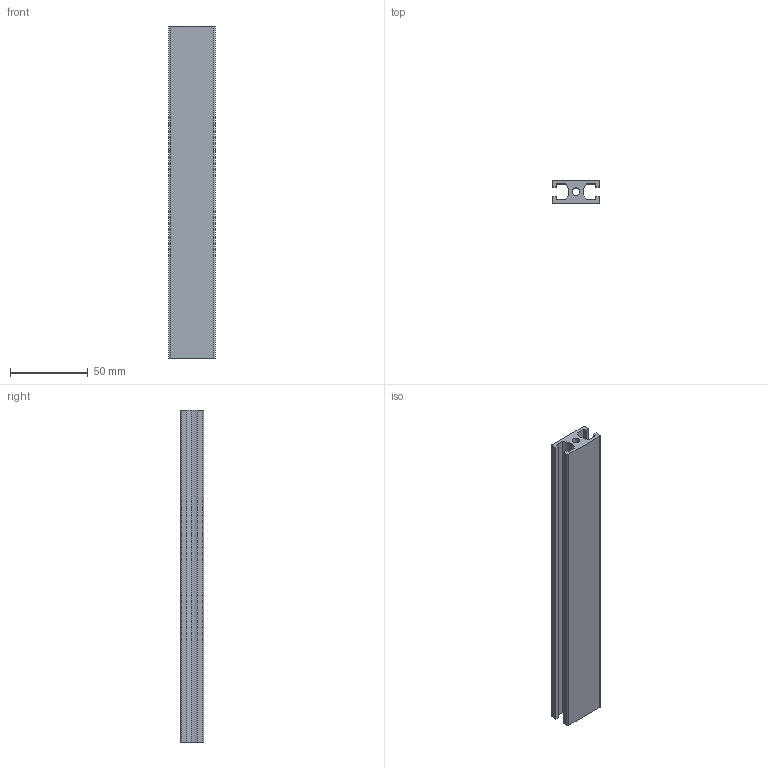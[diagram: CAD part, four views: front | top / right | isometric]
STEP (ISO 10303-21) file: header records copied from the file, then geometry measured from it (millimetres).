
FILE_DESCRIPTION (( 'STEP AP203' ), '1' );
FILE_NAME ('WS1530-6.STEP', '2024-02-17T06:29:00', ( '' ), ( '' ), 'SwSTEP 2.0', 'SolidWorks 2022', '' );
FILE_SCHEMA (( 'CONFIG_CONTROL_DESIGN' ));
Length unit declared in the file: millimetre
Products named in the file (1): WS1530-6
Bounding box: 30 x 15 x 213 mm (x, y, z)
Volume: 51766.6 mm3; surface area: 33645.3 mm2
Topology: 1 solids, 1 shells, 29 faces, 81 edges, 54 vertices
Faces by surface type: plane 20, cylinder 9
Entity records: 1014 total; most frequent: CARTESIAN_POINT 165, ORIENTED_EDGE 162, DIRECTION 159, EDGE_CURVE 81, LINE 63, VECTOR 63, VERTEX_POINT 54, AXIS2_PLACEMENT_3D 48
